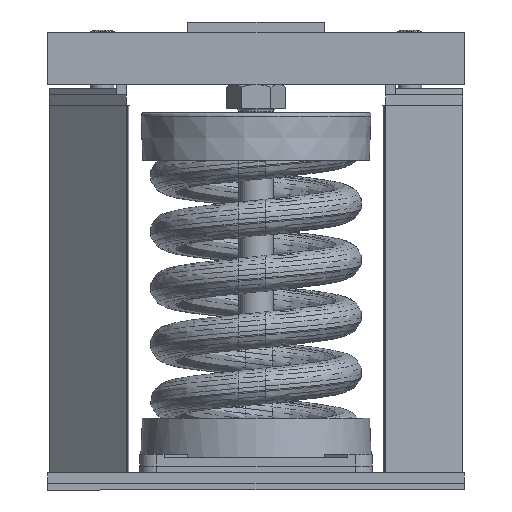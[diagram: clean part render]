
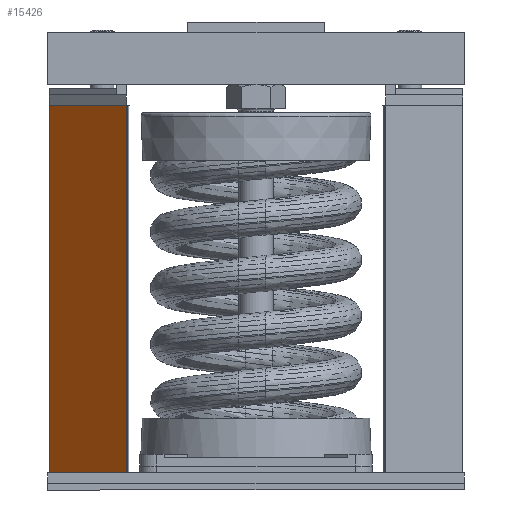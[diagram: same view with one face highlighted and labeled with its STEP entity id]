
A CAD part, front view. The second image highlights one B-rep face of the part: STEP entity #15426.
In plain terms, the highlighted planar face has unit normal (-0.707, -0.707, 0).
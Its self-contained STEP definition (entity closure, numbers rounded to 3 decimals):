
#2020=LINE('',#21158,#2550);
#2022=LINE('',#21162,#2552);
#2023=LINE('',#21164,#2553);
#2024=LINE('',#21165,#2554);
#2550=VECTOR('',#18515,13.455);
#2552=VECTOR('',#18519,4.);
#2553=VECTOR('',#18520,13.455);
#2554=VECTOR('',#18521,4.);
#3177=PLANE('',#16745);
#3876=FACE_OUTER_BOUND('',#5055,.T.);
#5055=EDGE_LOOP('',(#11031,#11032,#11033,#11034));
#6598=VERTEX_POINT('',#21155);
#6599=VERTEX_POINT('',#21157);
#6600=VERTEX_POINT('',#21161);
#6601=VERTEX_POINT('',#21163);
#8115=EDGE_CURVE('',#6599,#6598,#2020,.T.);
#8117=EDGE_CURVE('',#6598,#6600,#2022,.T.);
#8118=EDGE_CURVE('',#6601,#6600,#2023,.T.);
#8119=EDGE_CURVE('',#6599,#6601,#2024,.T.);
#11031=ORIENTED_EDGE('',*,*,#8117,.T.);
#11032=ORIENTED_EDGE('',*,*,#8118,.F.);
#11033=ORIENTED_EDGE('',*,*,#8119,.F.);
#11034=ORIENTED_EDGE('',*,*,#8115,.T.);
#15426=ADVANCED_FACE('',(#3876),#3177,.T.);
#16745=AXIS2_PLACEMENT_3D('',#21160,#18517,#18518);
#18515=DIRECTION('',(0.,0.,1.));
#18517=DIRECTION('center_axis',(-0.707,-0.707,0.));
#18518=DIRECTION('ref_axis',(0.,0.,-1.));
#18519=DIRECTION('',(-0.707,0.707,0.));
#18520=DIRECTION('',(0.,0.,1.));
#18521=DIRECTION('',(-0.707,0.707,0.));
#21155=CARTESIAN_POINT('',(-4.741,-2.828,14.08));
#21157=CARTESIAN_POINT('',(-4.741,-2.828,0.625));
#21158=CARTESIAN_POINT('',(-4.741,-2.828,0.625));
#21160=CARTESIAN_POINT('Origin',(-4.741,-2.828,0.625));
#21161=CARTESIAN_POINT('',(-7.57,0.,14.08));
#21162=CARTESIAN_POINT('',(-5.448,-2.121,14.08));
#21163=CARTESIAN_POINT('',(-7.57,0.,0.625));
#21164=CARTESIAN_POINT('',(-7.57,0.,0.625));
#21165=CARTESIAN_POINT('',(-5.448,-2.121,0.625));
